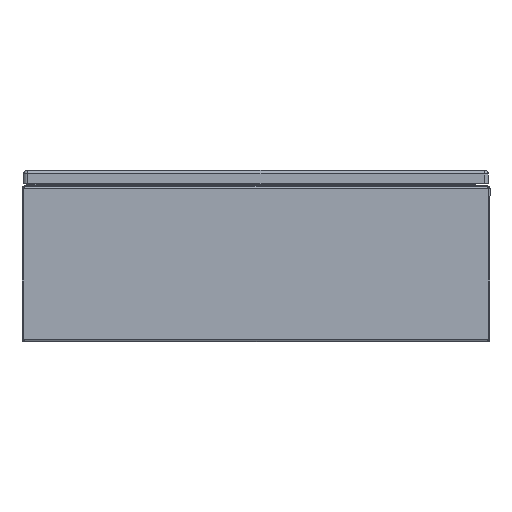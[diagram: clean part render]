
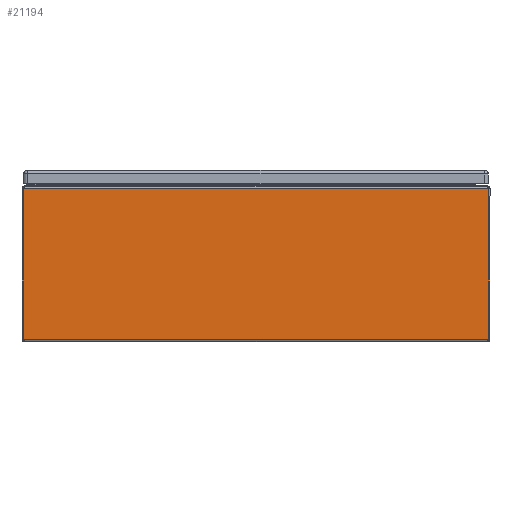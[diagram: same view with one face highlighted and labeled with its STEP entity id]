
A CAD part, front view. The second image highlights one B-rep face of the part: STEP entity #21194.
In plain terms, the highlighted planar face has unit normal (0, -1, 0).
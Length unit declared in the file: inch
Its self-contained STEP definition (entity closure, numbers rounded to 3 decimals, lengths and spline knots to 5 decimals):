
#724 = FACE_OUTER_BOUND ( 'NONE', #19952, .T. ) ;
#2151 = CARTESIAN_POINT ( 'NONE',  ( -12., -15., 8. ) ) ;
#2158 = PLANE ( 'NONE',  #2752 ) ;
#2163 = DIRECTION ( 'NONE',  ( 0., 1., 0. ) ) ;
#2164 = DIRECTION ( 'NONE',  ( 0., 0., 1. ) ) ;
#2752 = AXIS2_PLACEMENT_3D ( 'NONE', #2151, #2163, #2164 ) ;
#5674 = LINE ( 'NONE', #10508, #5679 ) ;
#5679 = VECTOR ( 'NONE', #10509, 39.37008 ) ;
#5682 = LINE ( 'NONE', #10516, #5689 ) ;
#5683 = LINE ( 'NONE', #10512, #5684 ) ;
#5684 = VECTOR ( 'NONE', #10513, 39.37008 ) ;
#5688 = LINE ( 'NONE', #10534, #5693 ) ;
#5689 = VECTOR ( 'NONE', #10519, 39.37008 ) ;
#5693 = VECTOR ( 'NONE', #10535, 39.37008 ) ;
#10508 = CARTESIAN_POINT ( 'NONE',  ( -11.94529, -15., 0.054 ) ) ;
#10509 = DIRECTION ( 'NONE',  ( 0., 0., 1. ) ) ;
#10512 = CARTESIAN_POINT ( 'NONE',  ( -12., -15., 0.141 ) ) ;
#10513 = DIRECTION ( 'NONE',  ( -1., 0., 0. ) ) ;
#10516 = CARTESIAN_POINT ( 'NONE',  ( 11.94529, -15., 8. ) ) ;
#10519 = DIRECTION ( 'NONE',  ( 0., 0., 1. ) ) ;
#10534 = CARTESIAN_POINT ( 'NONE',  ( 11.94529, -15., 7.859 ) ) ;
#10535 = DIRECTION ( 'NONE',  ( -1., 0., 0. ) ) ;
#11687 = VERTEX_POINT ( 'NONE', #32130 ) ;
#11689 = VERTEX_POINT ( 'NONE', #32132 ) ;
#11693 = VERTEX_POINT ( 'NONE', #32136 ) ;
#11694 = VERTEX_POINT ( 'NONE', #32137 ) ;
#19952 = EDGE_LOOP ( 'NONE', ( #24592, #24593, #24594, #24595 ) ) ;
#21194 = ADVANCED_FACE ( 'NONE', ( #724 ), #2158, .F. ) ;
#22033 = EDGE_CURVE ( 'NONE', #11689, #11693, #5674, .T. ) ;
#22035 = EDGE_CURVE ( 'NONE', #11687, #11689, #5683, .T. ) ;
#22038 = EDGE_CURVE ( 'NONE', #11687, #11694, #5682, .T. ) ;
#22042 = EDGE_CURVE ( 'NONE', #11694, #11693, #5688, .T. ) ;
#24592 = ORIENTED_EDGE ( 'NONE', *, *, #22042, .T. ) ;
#24593 = ORIENTED_EDGE ( 'NONE', *, *, #22033, .F. ) ;
#24594 = ORIENTED_EDGE ( 'NONE', *, *, #22035, .F. ) ;
#24595 = ORIENTED_EDGE ( 'NONE', *, *, #22038, .T. ) ;
#32130 = CARTESIAN_POINT ( 'NONE',  ( 11.94529, -15., 0.141 ) ) ;
#32132 = CARTESIAN_POINT ( 'NONE',  ( -11.94529, -15., 0.141 ) ) ;
#32136 = CARTESIAN_POINT ( 'NONE',  ( -11.94529, -15., 7.859 ) ) ;
#32137 = CARTESIAN_POINT ( 'NONE',  ( 11.94529, -15., 7.859 ) ) ;
